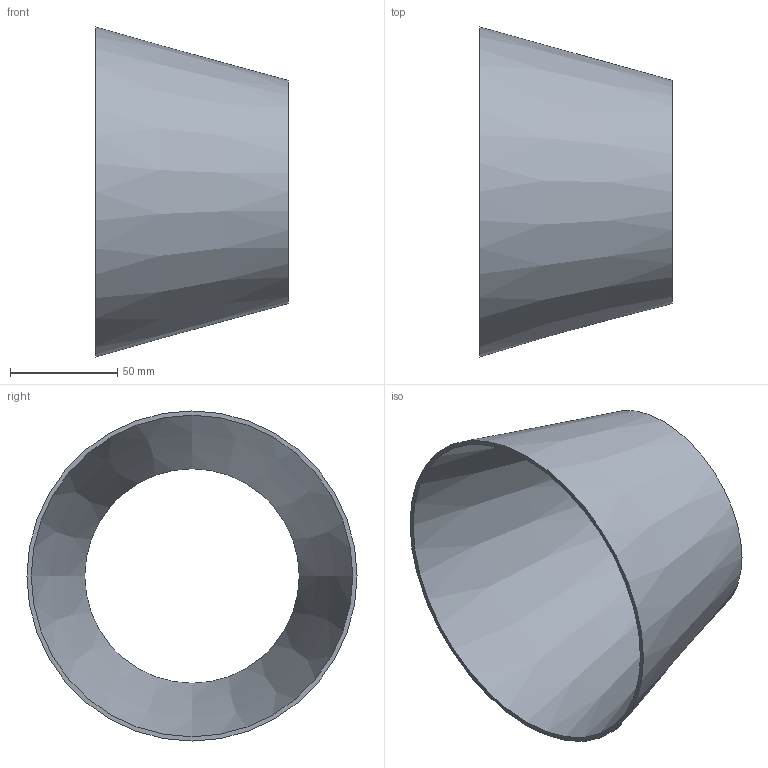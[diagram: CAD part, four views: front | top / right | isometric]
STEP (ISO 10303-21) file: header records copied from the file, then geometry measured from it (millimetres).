
FILE_DESCRIPTION(('FreeCAD Model'),'2;1');
FILE_NAME( '/home/martin/Documents/proyect/accesorios/stp/red-con_DN150-100.step' ,'2017-12-31T12:24:12',('Author'),(''), 'Open CASCADE STEP processor 6.8','FreeCAD','Unknown');
FILE_SCHEMA(('AUTOMOTIVE_DESIGN_CC2 { 1 2 10303 214 -1 1 5 4 }'));
Length unit declared in the file: millimetre
Products named in the file (1): red-con_DN150-100
Bounding box: 90 x 154 x 154 mm (x, y, z)
Volume: 71816.8 mm3; surface area: 76132 mm2
Topology: 1 solids, 1 shells, 4 faces, 6 edges, 4 vertices
Faces by surface type: cone 2, plane 2
Entity records: 191 total; most frequent: CARTESIAN_POINT 33, DIRECTION 26, ORIENTED_EDGE 12, PCURVE 12, DEFINITIONAL_REPRESENTATION 12, AXIS2_PLACEMENT_3D 9, CIRCLE 8, FACE_BOUND 6
